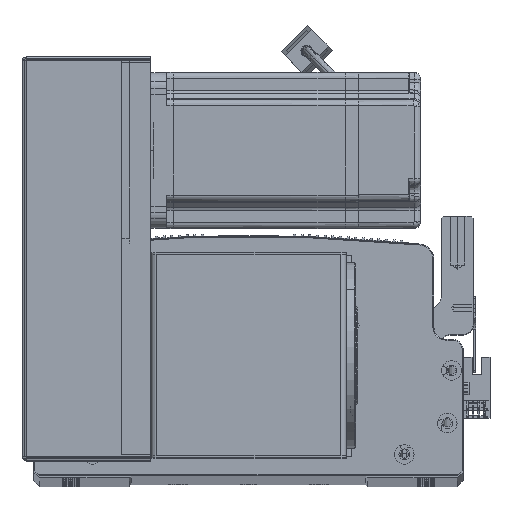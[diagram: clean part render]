
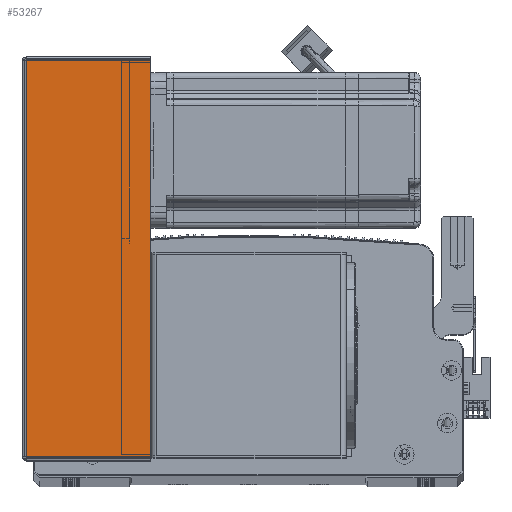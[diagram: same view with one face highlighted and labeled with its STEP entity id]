
A CAD part, top view. The second image highlights one B-rep face of the part: STEP entity #53267.
In plain terms, the highlighted planar face has unit normal (0, 0, 1) as drawn and (0, 1, 0) by its records, which use the part's own axes.
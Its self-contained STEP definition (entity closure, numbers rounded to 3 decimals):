
#407 = EDGE_CURVE ( 'NONE', #70561, #80686, #35648, .T. ) ;
#436 = LINE ( 'NONE', #52420, #26172 ) ;
#7077 = PLANE ( 'NONE',  #80451 ) ;
#15368 = ORIENTED_EDGE ( 'NONE', *, *, #407, .T. ) ;
#16765 = DIRECTION ( 'NONE',  ( 1., 0., 0. ) ) ;
#17004 = CARTESIAN_POINT ( 'NONE',  ( 0.737, 107.5, -203.293 ) ) ;
#23278 = ORIENTED_EDGE ( 'NONE', *, *, #91730, .T. ) ;
#25235 = LINE ( 'NONE', #61786, #96237 ) ;
#26172 = VECTOR ( 'NONE', #89102, 1000. ) ;
#28305 = CARTESIAN_POINT ( 'NONE',  ( 0., 107.5, 0. ) ) ;
#30547 = VERTEX_POINT ( 'NONE', #17004 ) ;
#34241 = LINE ( 'NONE', #52953, #91208 ) ;
#35648 = LINE ( 'NONE', #64016, #57789 ) ;
#37085 = DIRECTION ( 'NONE',  ( 0., -1., 0. ) ) ;
#44779 = FACE_OUTER_BOUND ( 'NONE', #87810, .T. ) ;
#46927 = CARTESIAN_POINT ( 'NONE',  ( 0.737, 107.5, -0.707 ) ) ;
#48775 = ORIENTED_EDGE ( 'NONE', *, *, #67712, .F. ) ;
#50739 = DIRECTION ( 'NONE',  ( 1., 0., 0. ) ) ;
#52420 = CARTESIAN_POINT ( 'NONE',  ( 0.737, 107.5, 0. ) ) ;
#52904 = EDGE_CURVE ( 'NONE', #70561, #30547, #436, .T. ) ;
#52953 = CARTESIAN_POINT ( 'NONE',  ( 0., 107.5, -203.293 ) ) ;
#53267 = ADVANCED_FACE ( 'NONE', ( #44779 ), #7077, .F. ) ;
#57207 = DIRECTION ( 'NONE',  ( 1., 0., 0. ) ) ;
#57789 = VECTOR ( 'NONE', #57207, 1000. ) ;
#61786 = CARTESIAN_POINT ( 'NONE',  ( 64.5, 107.5, -204. ) ) ;
#62106 = DIRECTION ( 'NONE',  ( 0., 0., -1. ) ) ;
#63373 = ORIENTED_EDGE ( 'NONE', *, *, #52904, .F. ) ;
#64016 = CARTESIAN_POINT ( 'NONE',  ( 0., 107.5, -0.707 ) ) ;
#67712 = EDGE_CURVE ( 'NONE', #30547, #95351, #34241, .T. ) ;
#70561 = VERTEX_POINT ( 'NONE', #46927 ) ;
#80451 = AXIS2_PLACEMENT_3D ( 'NONE', #28305, #37085, #50739 ) ;
#80686 = VERTEX_POINT ( 'NONE', #91928 ) ;
#87810 = EDGE_LOOP ( 'NONE', ( #63373, #15368, #23278, #48775 ) ) ;
#88487 = CARTESIAN_POINT ( 'NONE',  ( 64.5, 107.5, -203.293 ) ) ;
#89102 = DIRECTION ( 'NONE',  ( 0., 0., -1. ) ) ;
#91208 = VECTOR ( 'NONE', #16765, 1000. ) ;
#91730 = EDGE_CURVE ( 'NONE', #80686, #95351, #25235, .T. ) ;
#91928 = CARTESIAN_POINT ( 'NONE',  ( 64.5, 107.5, -0.707 ) ) ;
#95351 = VERTEX_POINT ( 'NONE', #88487 ) ;
#96237 = VECTOR ( 'NONE', #62106, 1000. ) ;
